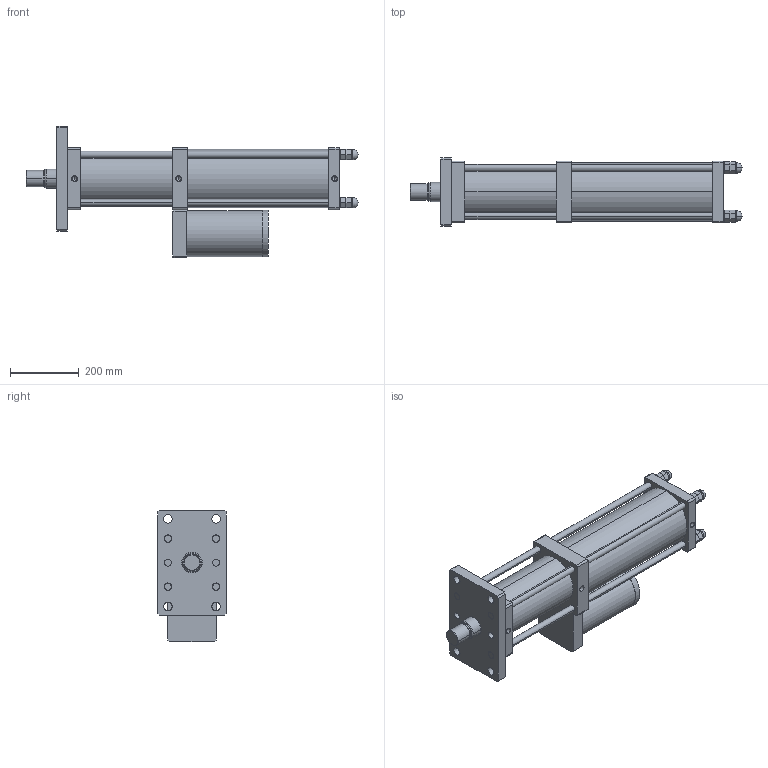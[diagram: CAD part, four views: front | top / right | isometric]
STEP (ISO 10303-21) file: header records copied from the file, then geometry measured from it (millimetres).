
FILE_DESCRIPTION (( 'STEP AP203' ), '1' );
FILE_NAME ('CPT-125-50-20-20T.STEP', '2016-03-12T01:44:00', ( 'WIN' ), ( '' ), 'SwSTEP 2.0', 'SolidWorks 2014', '' );
FILE_SCHEMA (( 'CONFIG_CONTROL_DESIGN' ));
Length unit declared in the file: millimetre
Products named in the file (1): CPT-125-50-20-20T
Bounding box: 966 x 200 x 382.5 mm (x, y, z)
Volume: 21640575.7 mm3; surface area: 1340887.8 mm2
Topology: 17 solids, 17 shells, 318 faces, 726 edges, 454 vertices
Faces by surface type: plane 154, cylinder 122, cone 30, sphere 8, torus 4
Entity records: 8889 total; most frequent: DIRECTION 1638, CARTESIAN_POINT 1467, ORIENTED_EDGE 1404, EDGE_CURVE 702, AXIS2_PLACEMENT_3D 617, VERTEX_POINT 446, VECTOR 404, LINE 404
